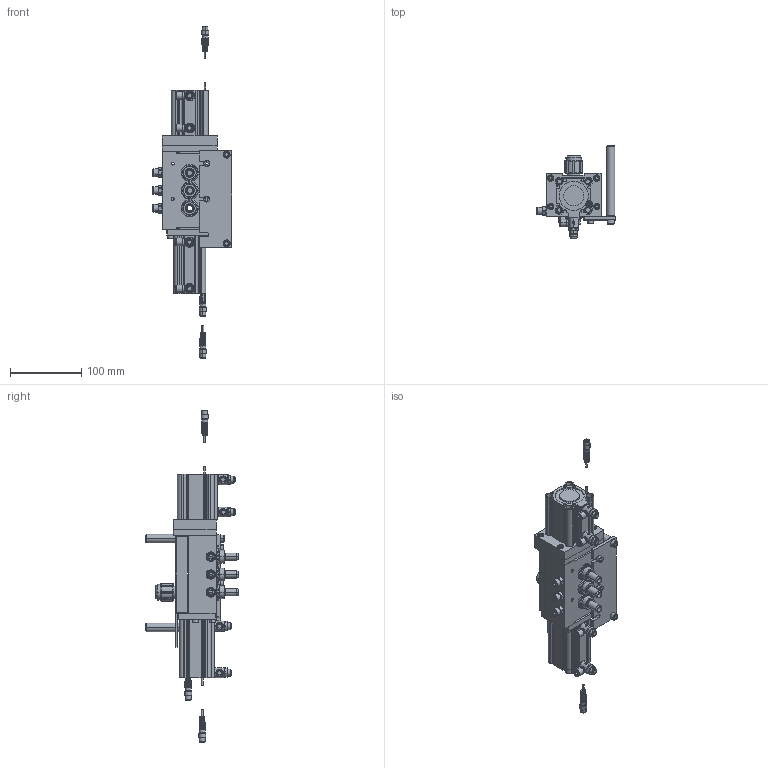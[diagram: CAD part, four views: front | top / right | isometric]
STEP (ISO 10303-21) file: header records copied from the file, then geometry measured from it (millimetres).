
FILE_DESCRIPTION (( 'STEP AP214' ), '1' );
FILE_NAME ('DROP 3 VIE.STEP', '2026-02-27T08:34:01', ( '' ), ( '' ), 'SwSTEP 2.0', 'SolidWorks 2022', '' );
FILE_SCHEMA (( 'AUTOMOTIVE_DESIGN' ));
Length unit declared in the file: millimetre
Products named in the file (1): DROP 3 VIE
Bounding box: 111.55 x 131 x 467.6 mm (x, y, z)
Surface area: 163507.7 mm2 (no closed solid volume)
Topology: 0 solids, 77 shells, 1323 faces, 3569 edges, 2376 vertices
Faces by surface type: plane 516, cylinder 494, cone 247, bspline 38, torus 28
Entity records: 60290 total; most frequent: CARTESIAN_POINT 12303, DIRECTION 7392, ORIENTED_EDGE 6191, EDGE_CURVE 3569, AXIS2_PLACEMENT_3D 2890, VERTEX_POINT 2376, VECTOR 1612, LINE 1612
